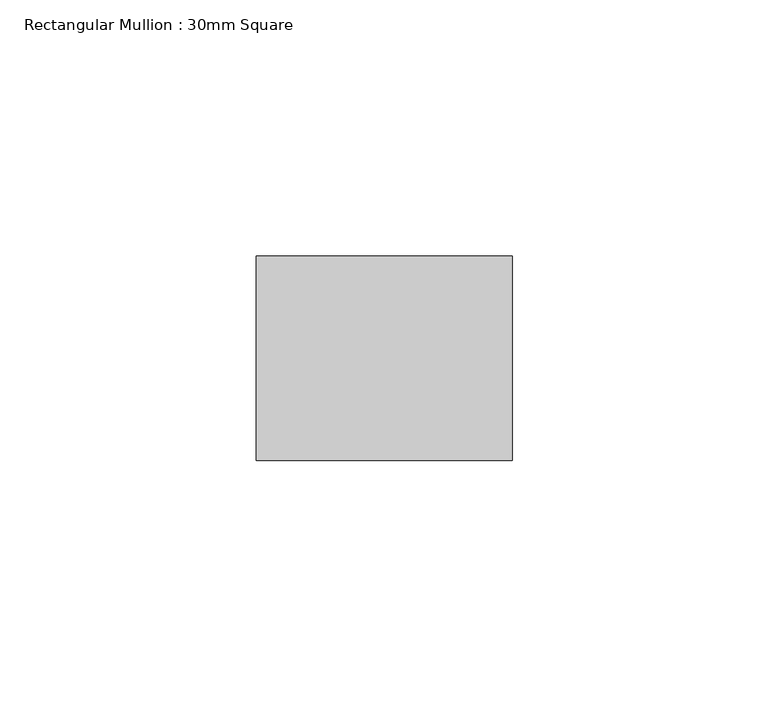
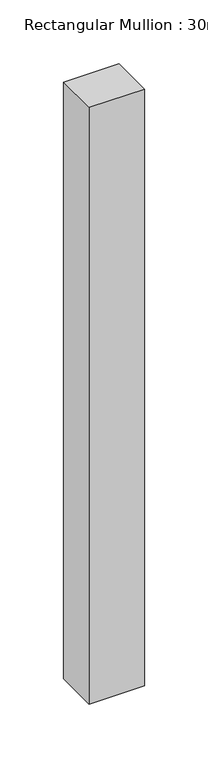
"""IFC4 building model written with IfcOpenShell, lengths in millimetres: member geometry, Rectangular Mullion : 30mm Square."""

from ifc_helpers import new_model, si_unit, frame, origin, place, context, project, spatial, polyline, outline, extrude, source, transform, mapped, element, save


def rectangular_mullion_30mm_square_8c048c14(model_context):
    return source(origin(), model_context, "Body", "SweptSolid", [
        extrude(outline(polyline([(0.0, 20.0), (0.0, -20.0), (-50.0, -20.0), (-50.0, 20.0), (0.0, 20.0)])), frame((0.0, 0.0, -570.9351012), z_axis=(0.0, 0.0, 1.0), x_axis=(1.0, 0.0, 0.0)), (0.0, 0.0, 1.0), 570.9351012),
    ])


if __name__ == "__main__":
    model = new_model("IFC4")
    model_context = context("Model", 3, world=origin())
    ifc_project = project(units=[si_unit("LENGTHUNIT", "METRE", prefix="MILLI")], contexts=[model_context])
    site = spatial("IfcSite", under=ifc_project)
    building = spatial("IfcBuilding", under=site)
    placement = place(None, origin())
    rectangular_mullion_30mm_square_shape = rectangular_mullion_30mm_square_8c048c14(model_context)
    element("IfcMember", 1, ObjectType="Rectangular Mullion : 30mm Square", at=placement, inside=building, context=model_context, shape_type="MappedRepresentation", body=[
        mapped(rectangular_mullion_30mm_square_shape, transform((0.0, 0.0, 0.0), x_axis=(1.0, 0.0, 0.0), y_axis=(0.0, 1.0, 0.0), z_axis=(0.0, 0.0, 1.0))),
    ])
    save(model, "model.ifc")
